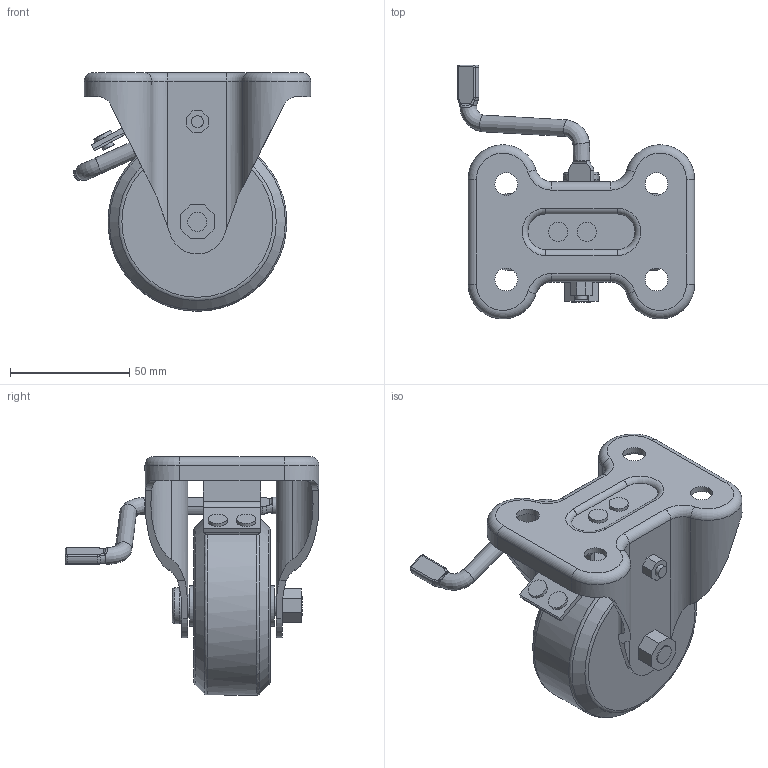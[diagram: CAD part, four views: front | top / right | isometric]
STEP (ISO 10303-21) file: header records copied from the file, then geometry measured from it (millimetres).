
FILE_DESCRIPTION(/* description */ (''),/* implementation_level */ '2;1');
FILE_NAME(/* name */ '25A04_3_F.stp',/* time_stamp */ '2022-08-27T11:27:06+08:00',/* author */ (''),/* organization */ (''),/* preprocessor_version */ 'ST-DEVELOPER v14',/* originating_system */ 'SIEMENS PLM Software NX 8.0',/* authorisation */ '');
FILE_SCHEMA (('AUTOMOTIVE_DESIGN { 1 0 10303 214 3 1 1 1 }'));
Length unit declared in the file: millimetre
Products named in the file (1): 25A04_3_F
Bounding box: 99.5 x 106.5 x 100 mm (x, y, z)
Volume: 185046 mm3; surface area: 54788.7 mm2
Topology: 1 solids, 3 shells, 451 faces, 1205 edges, 787 vertices
Faces by surface type: plane 265, cylinder 117, torus 34, bspline 24, extrusion 5, revolution 4, cone 2
Full cylindrical faces by diameter (mm): 4 x2, 4.1 x2, 5 x5, 7 x1, 8 x6, 8.2 x1, 9.5 x4, 10 x2, 15 x1, 17 x2
Entity records: 15707 total; most frequent: CARTESIAN_POINT 5155, ORIENTED_EDGE 2304, DIRECTION 1950, EDGE_CURVE 1152, VERTEX_POINT 772, AXIS2_PLACEMENT_3D 723, EDGE_LOOP 544, VECTOR 500
